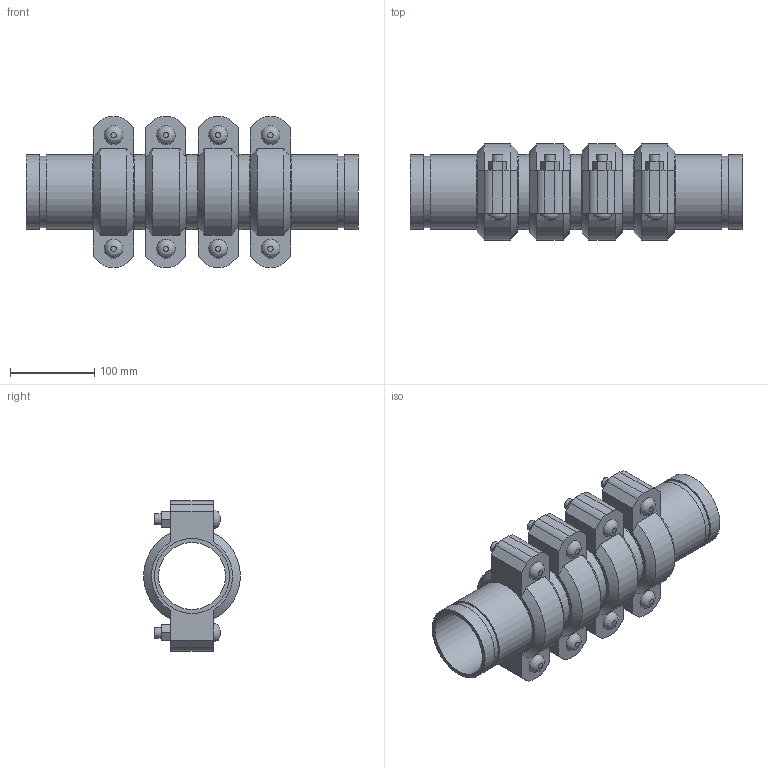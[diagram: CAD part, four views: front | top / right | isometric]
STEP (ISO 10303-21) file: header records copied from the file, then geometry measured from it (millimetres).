
FILE_DESCRIPTION(/* description */ ('VIC EXPANSION JOINT 4 COUPLINGS EXPANDED STYLE 155 (OGS)','CAx-IF Rec.Pracs.---Representation and Presentation of Product Manufacturing Information (PMI)---4.0---2014-10-13'),/* implementation_level */ '2;1');
FILE_NAME(/* name */ 'C:\Users\kkamble\AppData\Roaming\Autodesk\ApplicationPlugins\Victaulic.Temp\A310\Victaulic_IPS_Expansion Joint_Expanded_4 Couplings_Style 155 (OGS)_3 (80).stp',/* time_stamp */ '2021-06-27T00:00:28+02:00',/* author */ ('kkamble'),/* organization */ ('Victaulic'),/* preprocessor_version */ 'ST-DEVELOPER v17.2',/* originating_system */ 'Autodesk Inventor 2019',/* authorisation */ '');
FILE_SCHEMA (('AP242_MANAGED_MODEL_BASED_3D_ENGINEERING_MIM_LF { 1 0 10303 442 1 1 4 }'));
Length unit declared in the file: inch
Products named in the file (4): 155-03.0; Nipple-03.0; Nipple-03.0_1; 075-03.0
Assembly tree (9 placements, depth 2):
  155-03.0
    Nipple-03.0  x2
    Nipple-03.0_1  x3
    075-03.0  x4
Bounding box: 393.45 x 113.88 x 177.8 mm (x, y, z)
Volume: 1779940.8 mm3; surface area: 471278.1 mm2
Topology: 9 solids, 17 shells, 288 faces, 682 edges, 480 vertices
Faces by surface type: plane 174, cylinder 90, cone 16, bspline 8
Full cylindrical faces by diameter (mm): 12.7 x16, 14.605 x8, 79.35 x5, 82.55 x4, 84.938 x10, 88.9 x23
Entity records: 2785 total; most frequent: CARTESIAN_POINT 493, DIRECTION 461, ORIENTED_EDGE 386, EDGE_CURVE 193, AXIS2_PLACEMENT_3D 184, VERTEX_POINT 138, EDGE_LOOP 107, LINE 93
